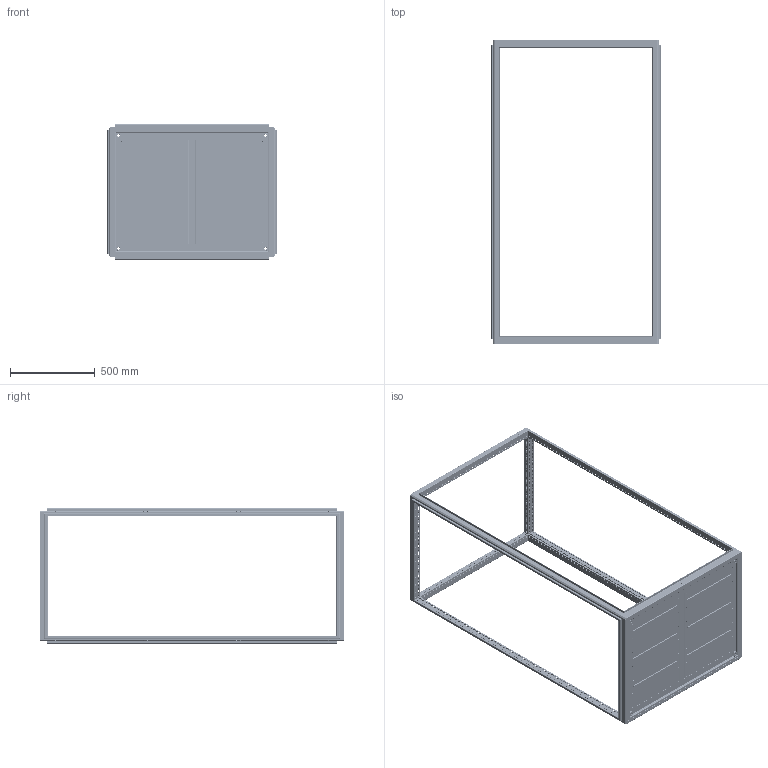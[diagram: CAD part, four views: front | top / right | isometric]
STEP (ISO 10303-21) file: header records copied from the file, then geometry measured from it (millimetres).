
FILE_DESCRIPTION(('STEP AP242'), '1');
FILE_NAME('ÊÑÊ.PRO.S.180.100.80 Êàðêàñ_ñåêöèîíèðîâàíèå', '', ('UNSPECIFIED'), ('UNSPECIFIED'), 'C3D Converter', 'C3D Toolkit', '');
FILE_SCHEMA(('AP242_MANAGED_MODEL_BASED_3D_ENGINEERING_MIM_LF { 1 0 10303 442 1 1 4 }'));
Length unit declared in the file: millimetre
Products named in the file (15): КСК.PRO.S.180.100.80; КСК.PRO.S.100.80; КСК.PRO.180; КСК.PRO.100.80; КСК.PRO.S.180; 2007.100.75; 2007.100.175; 2008.100.200; 2006.80
Assembly tree (47 placements, depth 2):
  КСК.PRO.S.180.100.80
    КСК.PRO.S.100.80
    КСК.PRO.180
    КСК.PRO.100.80
    КСК.PRO.180
    КСК.PRO.S.180
    КСК.PRO.S.180
    2007.100.75
    2007.100.175
    2007.100.75
    2007.100.175
    2008.100.200  x2
    2008.100.200  x2
    (unnamed)  x32
    2006.80
Bounding box: 997 x 1797 x 797 mm (x, y, z)
Volume: 4229995.8 mm3; surface area: 5746375.5 mm2
Topology: 47 solids, 47 shells, 10113 faces, 28213 edges, 18407 vertices
Faces by surface type: plane 7011, cylinder 2304, cone 502, bspline 192, torus 72, sphere 32
Full cylindrical faces by diameter (mm): 3.242 x56, 4.134 x154, 4.5 x1436, 4.8 x32, 6 x56, 6.5 x4, 7 x154, 10.106 x4, 13.835 x4, 14 x4, 21.545 x4
Entity records: 329753 total; most frequent: CARTESIAN_POINT 52894, ORIENTED_EDGE 47782, DIRECTION 46572, EDGE_CURVE 23891, LINE 19282, VECTOR 19282, EDGE_LOOP 17340, VERTEX_POINT 17037
